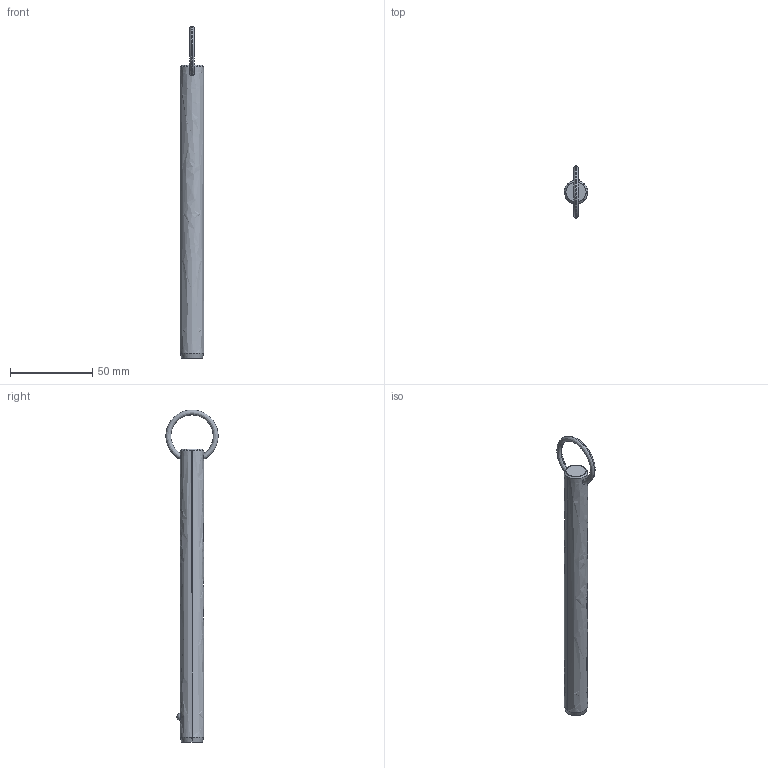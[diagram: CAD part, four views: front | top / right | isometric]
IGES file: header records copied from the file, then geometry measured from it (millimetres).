
Start section: SolidWorks IGES file using analytic representation for surfaces
Global section: file name: C:\Users\liam_\OneDrive\Documents\WORK\Work for WixRoyd\Job Files\J-00019 - Matt Davis CAD Checking\04. CAD Drawings\automotion20190605\P1250.2_v2\P1250.2_v2_20190729_IGES\P1250.056-600.igs; native system: SolidWorks 2017; preprocessor: SolidWorks 2017; author: liam_; date: 190729.232700; units: millimetre
Bounding box: 14.2 x 31.7 x 201.48 mm (x, y, z)
Surface area: 8893.2 mm2 (no closed solid volume)
Topology: 0 solids, 0 shells, 12 faces, 285 edges, 283 vertices
Faces by surface type: revolution 8, bspline 4
